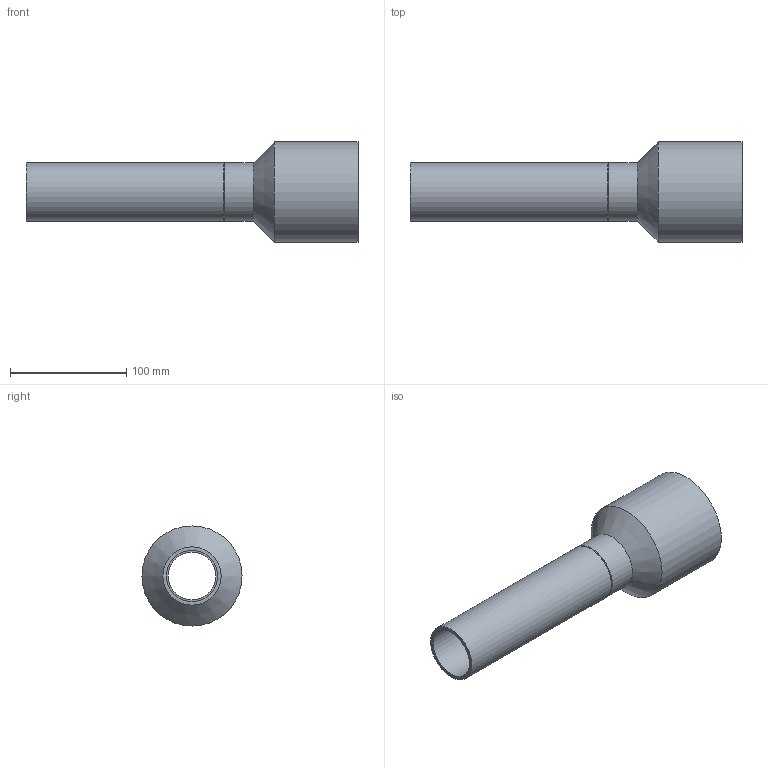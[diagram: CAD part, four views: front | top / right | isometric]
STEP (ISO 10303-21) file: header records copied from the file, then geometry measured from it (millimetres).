
FILE_DESCRIPTION(/* description */ (''),/* implementation_level */ '2;1');
FILE_NAME(/* name */ 'Z:\Geberit\Export\NewStep\152198.stp',/* time_stamp */ '2014-03-31T08:23:10+02:00',/* author */ ('nelson'),/* organization */ (''),/* preprocessor_version */ 'ST-DEVELOPER v15.2',/* originating_system */ 'Autodesk Inventor 2014',/* authorisation */ '');
FILE_SCHEMA (('AUTOMOTIVE_DESIGN { 1 0 10303 214 3 1 1 }'));
Length unit declared in the file: millimetre
Products named in the file (1): 152198
Bounding box: 285 x 86 x 86 mm (x, y, z)
Volume: 159147.1 mm3; surface area: 106909 mm2
Topology: 1 solids, 1 shells, 13 faces, 23 edges, 13 vertices
Faces by surface type: cylinder 6, cone 4, plane 3
Full cylindrical faces by diameter (mm): 41 x1, 44 x1, 50 x2, 80 x1, 86 x1
Entity records: 289 total; most frequent: DIRECTION 54, CARTESIAN_POINT 40, AXIS2_PLACEMENT_3D 27, EDGE_LOOP 26, ORIENTED_EDGE 26, FACE_BOUND 14, CIRCLE 13, VERTEX_POINT 13
